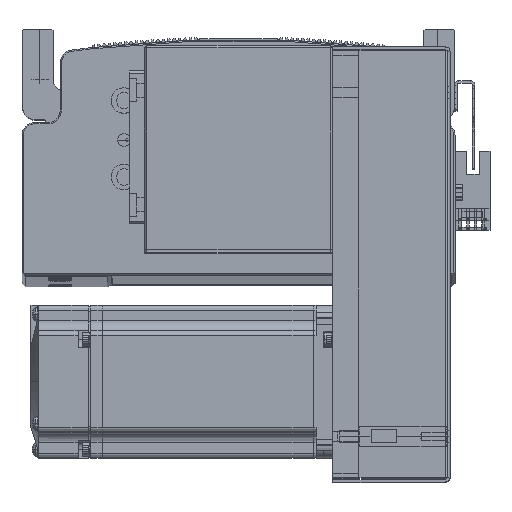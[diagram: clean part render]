
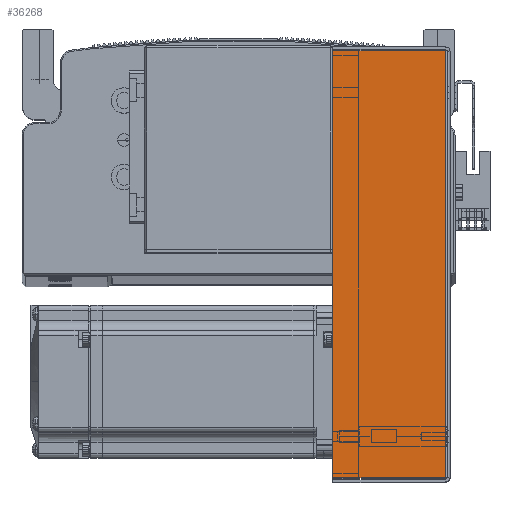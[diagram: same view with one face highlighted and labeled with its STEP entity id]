
A CAD part, top view. The second image highlights one B-rep face of the part: STEP entity #36268.
In plain terms, the highlighted planar face has unit normal (0, 0, 1) as drawn and (0, 0, -1) by its records, which use the part's own axes.
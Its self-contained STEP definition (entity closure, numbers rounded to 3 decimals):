
#9911 = VECTOR ( 'NONE', #26660, 1000. ) ;
#9922 = LINE ( 'NONE', #26636, #9965 ) ;
#9924 = LINE ( 'NONE', #26683, #9911 ) ;
#9930 = LINE ( 'NONE', #26607, #9966 ) ;
#9965 = VECTOR ( 'NONE', #26604, 1000. ) ;
#9966 = VECTOR ( 'NONE', #26616, 1000. ) ;
#10038 = LINE ( 'NONE', #24686, #10061 ) ;
#10061 = VECTOR ( 'NONE', #24685, 1000. ) ;
#12563 = CARTESIAN_POINT ( 'NONE',  ( 83.793, 0.737, -40.5 ) ) ;
#12584 = CARTESIAN_POINT ( 'NONE',  ( 83.793, 45., -40.5 ) ) ;
#12702 = CARTESIAN_POINT ( 'NONE',  ( -83.793, 45., -40.5 ) ) ;
#12833 = CARTESIAN_POINT ( 'NONE',  ( -83.793, 0.737, -40.5 ) ) ;
#24685 = DIRECTION ( 'NONE',  ( 1., 0., 0. ) ) ;
#24686 = CARTESIAN_POINT ( 'NONE',  ( 84.5, 45., -40.5 ) ) ;
#26604 = DIRECTION ( 'NONE',  ( 0., 1., 0. ) ) ;
#26607 = CARTESIAN_POINT ( 'NONE',  ( 83.793, 0., -40.5 ) ) ;
#26616 = DIRECTION ( 'NONE',  ( 0., 1., 0. ) ) ;
#26636 = CARTESIAN_POINT ( 'NONE',  ( -83.793, 0., -40.5 ) ) ;
#26660 = DIRECTION ( 'NONE',  ( 1., 0., 0. ) ) ;
#26683 = CARTESIAN_POINT ( 'NONE',  ( 0., 0.737, -40.5 ) ) ;
#28119 = FACE_OUTER_BOUND ( 'NONE', #33686, .T. ) ;
#31006 = AXIS2_PLACEMENT_3D ( 'NONE', #83337, #83320, #83328 ) ;
#33686 = EDGE_LOOP ( 'NONE', ( #51157, #51175, #51170, #51311 ) ) ;
#36268 = ADVANCED_FACE ( 'NONE', ( #28119 ), #83291, .F. ) ;
#51157 = ORIENTED_EDGE ( 'NONE', *, *, #64409, .F. ) ;
#51170 = ORIENTED_EDGE ( 'NONE', *, *, #64719, .T. ) ;
#51175 = ORIENTED_EDGE ( 'NONE', *, *, #64393, .T. ) ;
#51311 = ORIENTED_EDGE ( 'NONE', *, *, #64395, .F. ) ;
#64393 = EDGE_CURVE ( 'NONE', #86765, #86518, #9922, .T. ) ;
#64395 = EDGE_CURVE ( 'NONE', #86450, #86412, #9930, .T. ) ;
#64409 = EDGE_CURVE ( 'NONE', #86765, #86450, #9924, .T. ) ;
#64719 = EDGE_CURVE ( 'NONE', #86518, #86412, #10038, .T. ) ;
#83291 = PLANE ( 'NONE',  #31006 ) ;
#83320 = DIRECTION ( 'NONE',  ( 0., 0., 1. ) ) ;
#83328 = DIRECTION ( 'NONE',  ( 0., -1., 0. ) ) ;
#83337 = CARTESIAN_POINT ( 'NONE',  ( 0., 0., -40.5 ) ) ;
#86412 = VERTEX_POINT ( 'NONE', #12584 ) ;
#86450 = VERTEX_POINT ( 'NONE', #12563 ) ;
#86518 = VERTEX_POINT ( 'NONE', #12702 ) ;
#86765 = VERTEX_POINT ( 'NONE', #12833 ) ;
